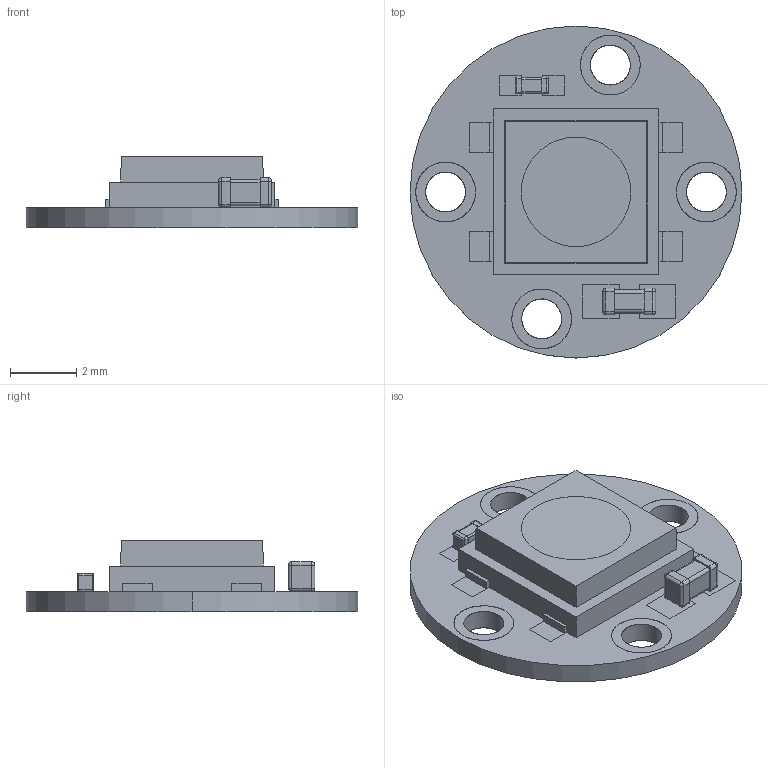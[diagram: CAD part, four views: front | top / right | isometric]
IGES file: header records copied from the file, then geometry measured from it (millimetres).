
Global section: file name: Filename.iges; native system: Open CASCADE 7.4; preprocessor: Open CASCADE IGES processor 7.4; date: 20200820.123255; units: millimetre
Bounding box: 10 x 10 x 2.14 mm (x, y, z)
Surface area: 584.7 mm2 (no closed solid volume)
Topology: 0 solids, 0 shells, 368 faces, 2140 edges, 3836 vertices
Faces by surface type: plane 220, revolution 148
